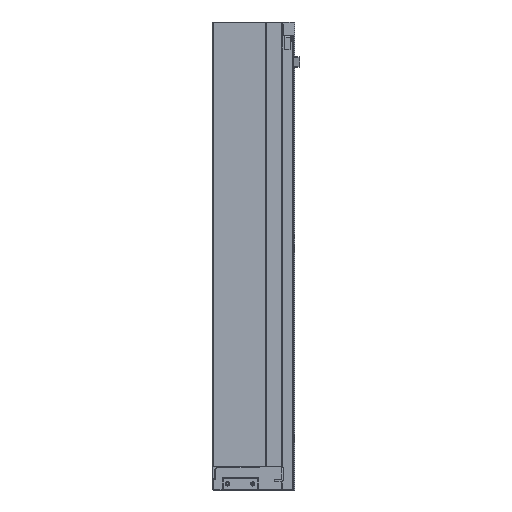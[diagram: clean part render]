
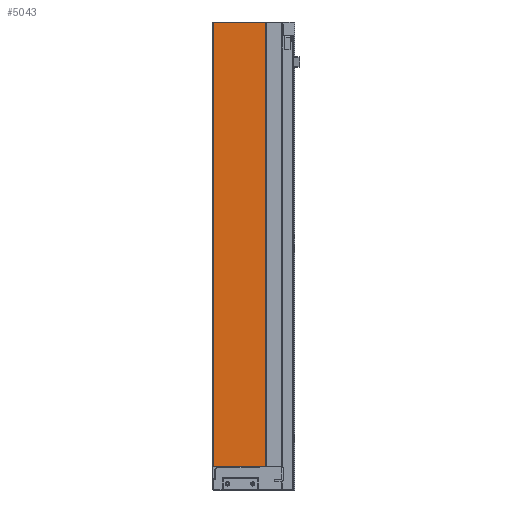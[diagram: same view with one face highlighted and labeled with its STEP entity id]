
A CAD part, left-side view. The second image highlights one B-rep face of the part: STEP entity #5043.
In plain terms, the highlighted planar face has unit normal (-1, 0, 0).
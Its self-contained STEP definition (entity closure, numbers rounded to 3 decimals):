
#89 = ORIENTED_EDGE ( 'NONE', *, *, #4273, .F. ) ;
#475 = CARTESIAN_POINT ( 'NONE',  ( 0.5, 55.8, -473.5 ) ) ;
#1022 = VECTOR ( 'NONE', #8568, 1000. ) ;
#1111 = LINE ( 'NONE', #9522, #3410 ) ;
#1175 = EDGE_CURVE ( 'NONE', #4496, #7096, #9141, .T. ) ;
#1670 = CARTESIAN_POINT ( 'NONE',  ( 0.5, 0., -473.5 ) ) ;
#1915 = CARTESIAN_POINT ( 'NONE',  ( 0.5, 0., 0. ) ) ;
#3410 = VECTOR ( 'NONE', #9151, 1000. ) ;
#3598 = ORIENTED_EDGE ( 'NONE', *, *, #1175, .T. ) ;
#3716 = CARTESIAN_POINT ( 'NONE',  ( 0.5, 55.8, 0. ) ) ;
#4273 = EDGE_CURVE ( 'NONE', #10920, #11725, #11590, .T. ) ;
#4496 = VERTEX_POINT ( 'NONE', #1915 ) ;
#4581 = EDGE_CURVE ( 'NONE', #10920, #4496, #1111, .T. ) ;
#4896 = ORIENTED_EDGE ( 'NONE', *, *, #4581, .T. ) ;
#5043 = ADVANCED_FACE ( 'NONE', ( #6039 ), #6178, .T. ) ;
#6039 = FACE_OUTER_BOUND ( 'NONE', #10909, .T. ) ;
#6082 = DIRECTION ( 'NONE',  ( 0., 0., 1. ) ) ;
#6101 = DIRECTION ( 'NONE',  ( -1., 0., 0. ) ) ;
#6118 = CARTESIAN_POINT ( 'NONE',  ( 0.5, 0., -562.455 ) ) ;
#6178 = PLANE ( 'NONE',  #7038 ) ;
#6776 = ORIENTED_EDGE ( 'NONE', *, *, #9215, .F. ) ;
#7038 = AXIS2_PLACEMENT_3D ( 'NONE', #6118, #6101, #6082 ) ;
#7043 = CARTESIAN_POINT ( 'NONE',  ( 0.5, 0., 0. ) ) ;
#7096 = VERTEX_POINT ( 'NONE', #3716 ) ;
#8056 = VECTOR ( 'NONE', #11153, 1000. ) ;
#8350 = LINE ( 'NONE', #10172, #8056 ) ;
#8568 = DIRECTION ( 'NONE',  ( 0., 1., 0. ) ) ;
#9141 = LINE ( 'NONE', #7043, #1022 ) ;
#9151 = DIRECTION ( 'NONE',  ( 0., 0., 1. ) ) ;
#9215 = EDGE_CURVE ( 'NONE', #11725, #7096, #8350, .T. ) ;
#9522 = CARTESIAN_POINT ( 'NONE',  ( 0.5, 0., -562.455 ) ) ;
#10172 = CARTESIAN_POINT ( 'NONE',  ( 0.5, 55.8, -562.455 ) ) ;
#10844 = CARTESIAN_POINT ( 'NONE',  ( 0.5, 0., -473.5 ) ) ;
#10909 = EDGE_LOOP ( 'NONE', ( #89, #4896, #3598, #6776 ) ) ;
#10920 = VERTEX_POINT ( 'NONE', #1670 ) ;
#10949 = DIRECTION ( 'NONE',  ( 0., 1., 0. ) ) ;
#11153 = DIRECTION ( 'NONE',  ( 0., 0., 1. ) ) ;
#11590 = LINE ( 'NONE', #10844, #11876 ) ;
#11725 = VERTEX_POINT ( 'NONE', #475 ) ;
#11876 = VECTOR ( 'NONE', #10949, 1000. ) ;
